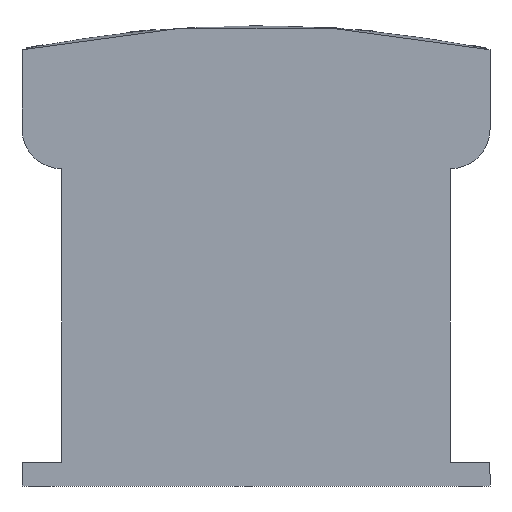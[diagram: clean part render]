
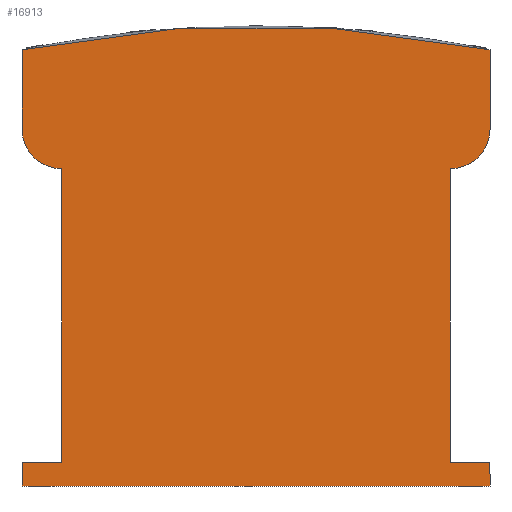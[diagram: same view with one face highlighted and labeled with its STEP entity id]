
A CAD part, left-side view. The second image highlights one B-rep face of the part: STEP entity #16913.
In plain terms, the highlighted planar face has unit normal (-1, 0, 0).
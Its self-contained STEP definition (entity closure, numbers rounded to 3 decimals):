
#1526=PLANE('',#17973);
#2431=FACE_OUTER_BOUND('',#3447,.T.);
#3447=EDGE_LOOP('',(#15073,#15074,#15075,#15076,#15077,#15078,#15079,#15080,
#15081,#15082,#15083,#15084));
#3926=CIRCLE('',#17795,146.542);
#3993=CIRCLE('',#17958,5.);
#3994=CIRCLE('',#17967,5.);
#5209=LINE('',#33432,#6545);
#5214=LINE('',#33438,#6550);
#5218=LINE('',#33446,#6554);
#5221=LINE('',#33452,#6557);
#5239=LINE('',#33481,#6575);
#5240=LINE('',#33482,#6576);
#5241=LINE('',#33484,#6577);
#5242=LINE('',#33486,#6578);
#5243=LINE('',#33487,#6579);
#6545=VECTOR('',#21075,10.);
#6550=VECTOR('',#21082,10.);
#6554=VECTOR('',#21088,10.);
#6557=VECTOR('',#21093,10.);
#6575=VECTOR('',#21127,10.);
#6576=VECTOR('',#21128,10.);
#6577=VECTOR('',#21129,10.);
#6578=VECTOR('',#21130,10.);
#6579=VECTOR('',#21131,10.);
#7980=VERTEX_POINT('',#32517);
#7981=VERTEX_POINT('',#32518);
#8184=VERTEX_POINT('',#33410);
#8185=VERTEX_POINT('',#33412);
#8187=VERTEX_POINT('',#33426);
#8189=VERTEX_POINT('',#33430);
#8190=VERTEX_POINT('',#33442);
#8192=VERTEX_POINT('',#33445);
#8194=VERTEX_POINT('',#33451);
#8196=VERTEX_POINT('',#33467);
#8198=VERTEX_POINT('',#33483);
#8199=VERTEX_POINT('',#33485);
#10260=EDGE_CURVE('',#7980,#7981,#3926,.T.);
#10524=EDGE_CURVE('',#8184,#8185,#3993,.T.);
#10535=EDGE_CURVE('',#8187,#8189,#5209,.T.);
#10540=EDGE_CURVE('',#8189,#8185,#5214,.T.);
#10544=EDGE_CURVE('',#8192,#8190,#5218,.T.);
#10547=EDGE_CURVE('',#8194,#8192,#5221,.T.);
#10560=EDGE_CURVE('',#8194,#8196,#3994,.T.);
#10567=EDGE_CURVE('',#8184,#7980,#5239,.T.);
#10568=EDGE_CURVE('',#8196,#7981,#5240,.T.);
#10569=EDGE_CURVE('',#8198,#8190,#5241,.T.);
#10570=EDGE_CURVE('',#8198,#8199,#5242,.T.);
#10571=EDGE_CURVE('',#8199,#8187,#5243,.T.);
#15073=ORIENTED_EDGE('',*,*,#10524,.F.);
#15074=ORIENTED_EDGE('',*,*,#10567,.T.);
#15075=ORIENTED_EDGE('',*,*,#10260,.T.);
#15076=ORIENTED_EDGE('',*,*,#10568,.F.);
#15077=ORIENTED_EDGE('',*,*,#10560,.F.);
#15078=ORIENTED_EDGE('',*,*,#10547,.T.);
#15079=ORIENTED_EDGE('',*,*,#10544,.T.);
#15080=ORIENTED_EDGE('',*,*,#10569,.F.);
#15081=ORIENTED_EDGE('',*,*,#10570,.T.);
#15082=ORIENTED_EDGE('',*,*,#10571,.T.);
#15083=ORIENTED_EDGE('',*,*,#10535,.T.);
#15084=ORIENTED_EDGE('',*,*,#10540,.T.);
#16913=ADVANCED_FACE('',(#2431),#1526,.T.);
#17795=AXIS2_PLACEMENT_3D('',#32519,#20542,#20543);
#17958=AXIS2_PLACEMENT_3D('',#33413,#21055,#21056);
#17967=AXIS2_PLACEMENT_3D('',#33468,#21108,#21109);
#17973=AXIS2_PLACEMENT_3D('',#33480,#21125,#21126);
#20542=DIRECTION('center_axis',(-1.,0.,0.));
#20543=DIRECTION('ref_axis',(0.,0.201,0.98));
#21055=DIRECTION('center_axis',(1.,0.,0.));
#21056=DIRECTION('ref_axis',(0.,-0.707,-0.707));
#21075=DIRECTION('',(0.,1.,0.));
#21082=DIRECTION('',(0.,0.,1.));
#21088=DIRECTION('',(0.,1.,0.));
#21093=DIRECTION('',(0.,0.,-1.));
#21108=DIRECTION('center_axis',(1.,0.,0.));
#21109=DIRECTION('ref_axis',(0.,0.707,-0.707));
#21125=DIRECTION('center_axis',(-1.,0.,0.));
#21126=DIRECTION('ref_axis',(0.,-1.,0.));
#21127=DIRECTION('',(0.,0.,1.));
#21128=DIRECTION('',(0.,0.,1.));
#21129=DIRECTION('',(0.,0.,1.));
#21130=DIRECTION('',(0.,-1.,0.));
#21131=DIRECTION('',(0.,0.,1.));
#32517=CARTESIAN_POINT('',(0.,0.,55.));
#32518=CARTESIAN_POINT('',(0.,59.,55.));
#32519=CARTESIAN_POINT('Origin',(0.,29.5,-88.542));
#33410=CARTESIAN_POINT('',(0.,0.,45.));
#33412=CARTESIAN_POINT('',(0.,5.,40.));
#33413=CARTESIAN_POINT('Origin',(0.,5.,45.));
#33426=CARTESIAN_POINT('',(0.,0.,3.));
#33430=CARTESIAN_POINT('',(0.,5.,3.));
#33432=CARTESIAN_POINT('',(0.,32.,3.));
#33438=CARTESIAN_POINT('',(0.,5.,20.));
#33442=CARTESIAN_POINT('',(0.,59.,3.));
#33445=CARTESIAN_POINT('',(0.,54.,3.));
#33446=CARTESIAN_POINT('',(0.,56.5,3.));
#33451=CARTESIAN_POINT('',(0.,54.,40.));
#33452=CARTESIAN_POINT('',(0.,54.,20.));
#33467=CARTESIAN_POINT('',(0.,59.,45.));
#33468=CARTESIAN_POINT('Origin',(0.,54.,45.));
#33480=CARTESIAN_POINT('Origin',(0.,59.,0.));
#33481=CARTESIAN_POINT('',(0.,0.,0.));
#33482=CARTESIAN_POINT('',(0.,59.,0.));
#33483=CARTESIAN_POINT('',(0.,59.,0.));
#33484=CARTESIAN_POINT('',(0.,59.,0.));
#33485=CARTESIAN_POINT('',(0.,0.,0.));
#33486=CARTESIAN_POINT('',(0.,59.,0.));
#33487=CARTESIAN_POINT('',(0.,0.,0.));
